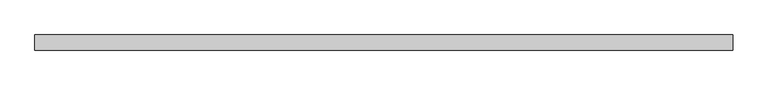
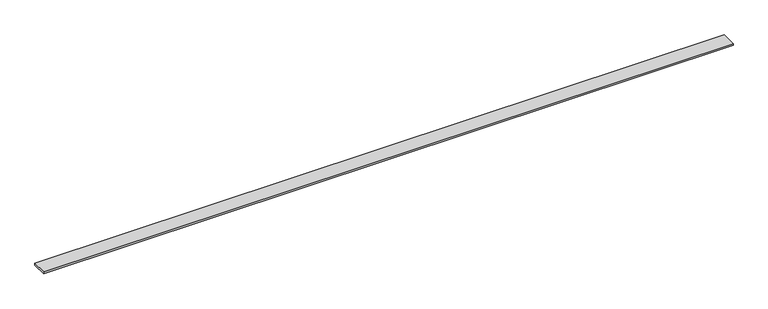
"""IFC4 building model written with IfcOpenShell, lengths in millimetres: proxy geometry, SHEPPARD BRACKETS^1 INCH PLATE_7 INCH POST-46 INCH LENGTH."""

import ifcopenshell
import ifcopenshell.guid

model = None  # the IFC model being written
_history = None  # IfcOwnerHistory: only IFC2X3 demands one
_inside = {}  # id of a spatial element -> (the spatial element, [elements in it])
_under = {}  # id of a project, library or spatial element -> (it, [spatial elements below it])
_declared = {}  # id of a project -> (the project, [libraries it declares])
_typed = {}  # id of a type object -> (the type object, [elements of that type])
_made_of = {}  # id of a material, layer set ... -> (it, [elements and type objects made of it])


def new_model(schema):
    """Start an empty IFC model of exactly this schema.

    Asked for "IFC4X3", IfcOpenShell would pick the latest addendum, in which some entities
    have other attributes; the version numbers below select the first issue.
    IFC2X3 requires an IfcOwnerHistory on every rooted entity: one is made here for all.
    """
    global model, _history
    if schema == "IFC4X3":
        model = ifcopenshell.file(schema_version=(4, 3, 0, 0))
    else:
        model = ifcopenshell.file(schema=schema)
    _inside.clear()
    _under.clear()
    _declared.clear()
    _typed.clear()
    _made_of.clear()
    _history = None
    if model.schema == "IFC2X3":
        org = make("IfcOrganization", Name="unknown")
        user = make(
            "IfcPersonAndOrganization",
            ThePerson=make("IfcPerson", FamilyName="unknown"),
            TheOrganization=org,
        )
        app = make(
            "IfcApplication",
            ApplicationDeveloper=org,
            Version="unknown",
            ApplicationFullName="unknown",
            ApplicationIdentifier="unknown",
        )
        _history = make(
            "IfcOwnerHistory",
            OwningUser=user,
            OwningApplication=app,
            ChangeAction="ADDED",
            CreationDate=0,
        )
    return model


def make(cls, **values):
    """One entity of the class cls with the attributes given. An attribute that is None is left unset."""
    return model.create_entity(
        cls, **{name: value for name, value in values.items() if value is not None}
    )


def rooted(cls, **values):
    """An entity with a GlobalId (a new one), such as an element, a storey or a relation."""
    return make(cls, GlobalId=ifcopenshell.guid.new(), OwnerHistory=_history, **values)


def si_unit(unit_type, name, prefix=None):
    """IfcSIUnit, for example si_unit("LENGTHUNIT", "METRE", prefix="MILLI")."""
    return make("IfcSIUnit", UnitType=unit_type, Prefix=prefix, Name=name)


def assignment(units):
    """IfcUnitAssignment: the units of a project."""
    return None if units is None else make("IfcUnitAssignment", Units=units)


def point(xyz):
    """IfcCartesianPoint."""
    return None if xyz is None else make("IfcCartesianPoint", Coordinates=xyz)


def direction(xyz):
    """IfcDirection."""
    return None if xyz is None else make("IfcDirection", DirectionRatios=xyz)


def frame(location, z_axis=None, x_axis=None):
    """IfcAxis2Placement3D, a coordinate frame: its origin and axes. An axis left out is left unset."""
    return make(
        "IfcAxis2Placement3D",
        Location=point(location),
        Axis=direction(z_axis),
        RefDirection=direction(x_axis),
    )


def origin():
    """The frame at (0, 0, 0) with its axes left unset."""
    return frame((0.0, 0.0, 0.0))


def origin_with_axes():
    """The frame at (0, 0, 0) with the z axis (0, 0, 1) and the x axis (1, 0, 0) written out."""
    return frame((0.0, 0.0, 0.0), z_axis=(0.0, 0.0, 1.0), x_axis=(1.0, 0.0, 0.0))


def place(relative_to, where):
    """IfcLocalPlacement: puts the frame where relative to a parent placement (None: the world)."""
    return make(
        "IfcLocalPlacement", PlacementRelTo=relative_to, RelativePlacement=where
    )


def context(
    kind, dimensions, precision=None, world=None, true_north=None, identifier=None
):
    """IfcGeometricRepresentationContext, for example the 3D "Model" context."""
    return make(
        "IfcGeometricRepresentationContext",
        ContextIdentifier=identifier,
        ContextType=kind,
        CoordinateSpaceDimension=dimensions,
        Precision=precision,
        WorldCoordinateSystem=world,
        TrueNorth=true_north,
    )


def project(units=None, contexts=None):
    """IfcProject with its units and contexts."""
    return rooted(
        "IfcProject",
        Name="project",
        RepresentationContexts=contexts,
        UnitsInContext=assignment(units),
    )


def spatial(cls, under=None, at=None, **own):
    """A site, building, storey or space (cls), placed at a placement, below another one or the project."""
    s = rooted(cls, ObjectPlacement=at, **own)
    if under is not None:
        _under.setdefault(under.id(), (under, []))[1].append(s)
    return s


def polyline(points):
    """IfcPolyline through the points."""
    return make("IfcPolyline", Points=[point(p) for p in points])


def outline(outer, holes=None, kind="AREA"):
    """IfcArbitraryClosedProfileDef: a profile drawn as a closed curve; with holes, ...WithVoids."""
    if holes is None:
        return make("IfcArbitraryClosedProfileDef", ProfileType=kind, OuterCurve=outer)
    return make(
        "IfcArbitraryProfileDefWithVoids",
        ProfileType=kind,
        OuterCurve=outer,
        InnerCurves=holes,
    )


def extrude(swept, where, along, depth):
    """IfcExtrudedAreaSolid: the profile swept, set in the frame where, extruded along a direction by depth."""
    return make(
        "IfcExtrudedAreaSolid",
        SweptArea=swept,
        Position=where,
        ExtrudedDirection=direction(along),
        Depth=depth,
    )


def shape(context_of_items, identifier, shape_type, items):
    """IfcShapeRepresentation: the items that make up one representation, for example the "Body"."""
    return make(
        "IfcShapeRepresentation",
        ContextOfItems=context_of_items,
        RepresentationIdentifier=identifier,
        RepresentationType=shape_type,
        Items=items,
    )


def source(mapping_origin, context_of_items, identifier, shape_type, items):
    """IfcRepresentationMap: a shape defined once, which mapped items show again and again."""
    return make(
        "IfcRepresentationMap",
        MappingOrigin=mapping_origin,
        MappedRepresentation=shape(context_of_items, identifier, shape_type, items),
    )


def transform(
    local_origin,
    x_axis=None,
    y_axis=None,
    z_axis=None,
    scale=None,
    scale2=None,
    scale3=None,
    uniform=True,
):
    """IfcCartesianTransformationOperator3D, or its non-uniform kind. x_axis, y_axis, z_axis: its Axis1, 2, 3."""
    if uniform:
        return make(
            "IfcCartesianTransformationOperator3D",
            Axis1=direction(x_axis),
            Axis2=direction(y_axis),
            LocalOrigin=point(local_origin),
            Scale=scale,
            Axis3=direction(z_axis),
        )
    return make(
        "IfcCartesianTransformationOperator3DnonUniform",
        Axis1=direction(x_axis),
        Axis2=direction(y_axis),
        LocalOrigin=point(local_origin),
        Scale=scale,
        Axis3=direction(z_axis),
        Scale2=scale2,
        Scale3=scale3,
    )


def mapped(mapping_source, mapping_target):
    """IfcMappedItem: shows the shape of a source again, moved by a transform."""
    return make(
        "IfcMappedItem", MappingSource=mapping_source, MappingTarget=mapping_target
    )


def made_of(thing, what):
    """Note that an element or type object is made of a material, layer set ...; save() writes the relation."""
    if what is not None:
        _made_of.setdefault(what.id(), (what, []))[1].append(thing)
    return thing


def element(
    cls,
    number,
    at=None,
    inside=None,
    cuts=None,
    type_object=None,
    material=None,
    context=None,
    identifier="Body",
    shape_type=None,
    held_by="IfcProductDefinitionShape",
    body=None,
    shapes=None,
    **own,
):
    """One element of the class cls, such as IfcWall. Its Tag is "e" and its number.

    at: its placement. inside: the storey or other place that contains it. cuts: it is an
    opening in that element (IfcRelVoidsElement). A single representation is given by context,
    identifier, shape_type and body (its items); several are given by shapes. held_by: the class
    of the entity that holds the representations. save() writes the other relations.
    """
    e = rooted(cls, Tag="e%d" % number, ObjectPlacement=at, **own)
    if body is not None:
        shapes = [shape(context, identifier, shape_type, body)]
    if shapes is not None:
        e.Representation = make(held_by, Representations=shapes)
    if inside is not None:
        _inside.setdefault(inside.id(), (inside, []))[1].append(e)
    if cuts is not None:
        rooted(
            "IfcRelVoidsElement", RelatingBuildingElement=cuts, RelatedOpeningElement=e
        )
    if type_object is not None:
        _typed.setdefault(type_object.id(), (type_object, []))[1].append(e)
    return made_of(e, material)


def aggregate(whole, parts):
    """IfcRelAggregates: a whole, such as a stair, and the parts it consists of."""
    return rooted("IfcRelAggregates", RelatingObject=whole, RelatedObjects=parts)


def save(model, path):
    """Write the relations noted so far, then the file.

    IfcRelAggregates (storeys below a building ...), IfcRelContainedInSpatialStructure (elements
    in a storey), IfcRelDefinesByType, IfcRelAssociatesMaterial and IfcRelDeclares: one each for
    every whole, place, type object, material and project.
    """
    for whole, parts in _under.values():
        aggregate(whole, parts)
    for where, things in _inside.values():
        rooted(
            "IfcRelContainedInSpatialStructure",
            RelatedElements=things,
            RelatingStructure=where,
        )
    for kind, things in _typed.values():
        rooted("IfcRelDefinesByType", RelatedObjects=things, RelatingType=kind)
    for what, things in _made_of.values():
        rooted("IfcRelAssociatesMaterial", RelatedObjects=things, RelatingMaterial=what)
    for by, libraries in _declared.values():
        rooted("IfcRelDeclares", RelatingContext=by, RelatedDefinitions=libraries)
    model.write(path)


def generic_models_4774c616(model_context):
    return source(origin(), model_context, "Body", "SweptSolid", [
        extrude(outline(polyline([(0.0, 0.0), (0.0, 25.4), (1168.4, 25.4), (1168.4, 0.0), (0.0, 0.0)])), origin_with_axes(), (0.0, 0.0, 1.0), 3.175),
    ])


if __name__ == "__main__":
    model = new_model("IFC4")
    model_context = context("Model", 3, world=origin())
    ifc_project = project(units=[si_unit("LENGTHUNIT", "METRE", prefix="MILLI")], contexts=[model_context])
    site = spatial("IfcSite", under=ifc_project)
    building = spatial("IfcBuilding", under=site)
    placement = place(None, origin())
    generic_models_shape = generic_models_4774c616(model_context)
    element("IfcBuildingElementProxy", 1, Name="SHEPPARD BRACKETS^1 INCH PLATE_7 INCH POST-46 INCH LENGTH", ObjectType="SHEPPARD BRACKETS^1 INCH PLATE_7 INCH POST-46 INCH LENGTH", at=placement, inside=building, context=model_context, shape_type="MappedRepresentation", body=[
        mapped(generic_models_shape, transform((0.0, 0.0, 0.0), x_axis=(1.0, 0.0, 0.0), y_axis=(0.0, 1.0, 0.0), z_axis=(0.0, 0.0, 1.0))),
    ])
    save(model, "model.ifc")
